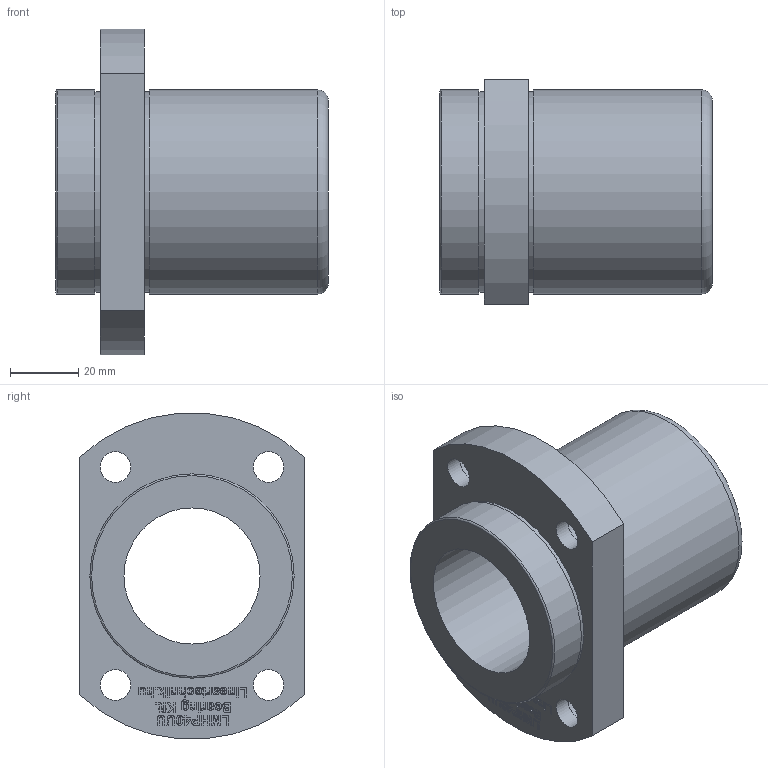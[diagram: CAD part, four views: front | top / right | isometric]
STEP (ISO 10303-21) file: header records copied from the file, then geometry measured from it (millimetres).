
FILE_DESCRIPTION(/* description */ (''),/* implementation_level */ '2;1');
FILE_NAME(/* name */ 'LMHP40UU',/* time_stamp */ '2019-07-09T13:43:23+02:00',/* author */ ('VĂ©gh MĂˇtĂ©'),/* organization */ ('Bearing Kft'),/* preprocessor_version */ 'ST-DEVELOPER v16.7',/* originating_system */ 'DEX',/* authorisation */ $);
FILE_SCHEMA (('AUTOMOTIVE_DESIGN {1 0 10303 214 3 1 1}'));
Length unit declared in the file: millimetre
Products named in the file (1): LMHP40UU
Bounding box: 80 x 66 x 95.66 mm (x, y, z)
Volume: 157333.9 mm3; surface area: 37049.6 mm2
Topology: 1 solids, 1 shells, 345 faces, 856 edges, 570 vertices
Faces by surface type: plane 267, bspline 59, cylinder 17, torus 2
Full cylindrical faces by diameter (mm): 9 x4, 14 x4, 40 x1, 59 x2, 60 x2
Entity records: 13346 total; most frequent: CARTESIAN_POINT 5503, ORIENTED_EDGE 1676, DIRECTION 1330, EDGE_CURVE 838, LINE 684, VECTOR 684, VERTEX_POINT 570, EDGE_LOOP 430
